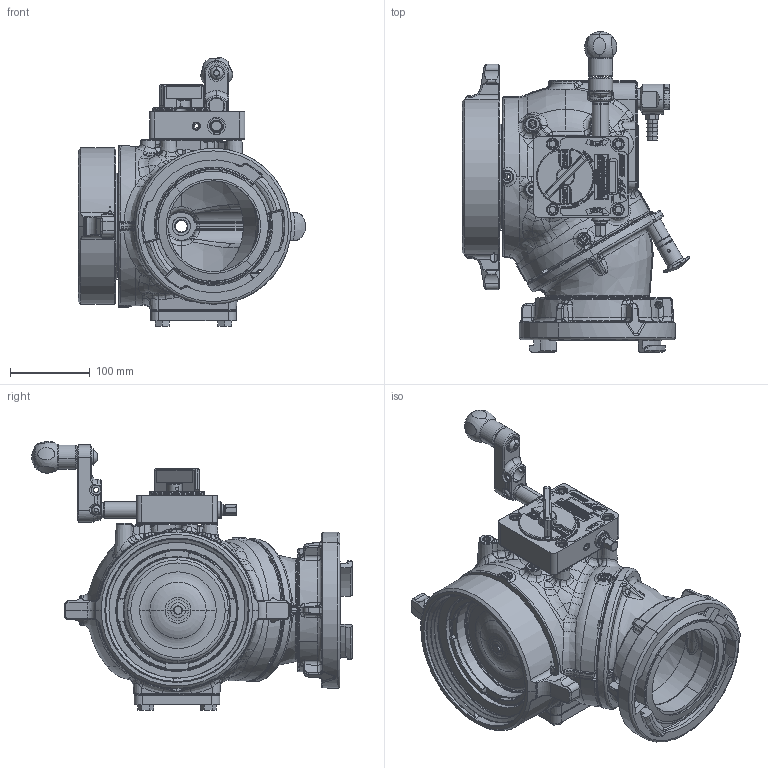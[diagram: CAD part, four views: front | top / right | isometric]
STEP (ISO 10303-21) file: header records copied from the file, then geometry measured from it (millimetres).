
FILE_DESCRIPTION (( 'STEP AP203' ), '1' );
FILE_NAME ('AZD1ST-NX-T_Down.STEP', '2015-03-24T13:24:16', ( '' ), ( '' ), 'SwSTEP 2.0', 'SolidWorks 2015', '' );
FILE_SCHEMA (( 'CONFIG_CONTROL_DESIGN' ));
Length unit declared in the file: inch
Products named in the file (1): AZD1ST-NX-T_Down
Bounding box: 286.48 x 403.23 x 337.98 mm (x, y, z)
Surface area: 609737.4 mm2 (no closed solid volume)
Topology: 0 solids, 279 shells, 2654 faces, 16008 edges, 13412 vertices
Faces by surface type: plane 944, bspline 541, cylinder 531, cone 334, torus 269, sphere 35
Entity records: 218981 total; most frequent: CARTESIAN_POINT 109251, ORIENTED_EDGE 21179, DIRECTION 18296, EDGE_CURVE 15993, VERTEX_POINT 13410, VECTOR 8664, LINE 8664, AXIS2_PLACEMENT_3D 4816
